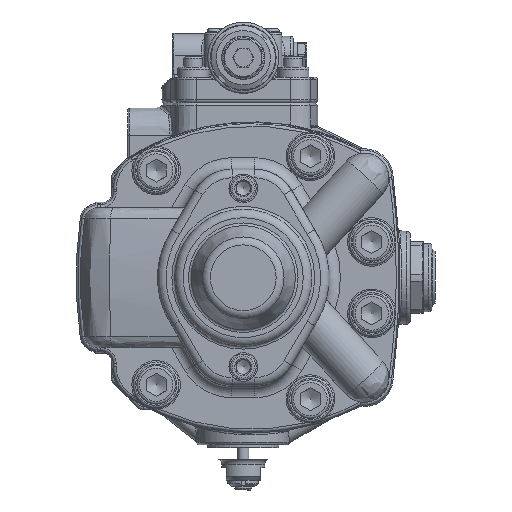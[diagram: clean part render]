
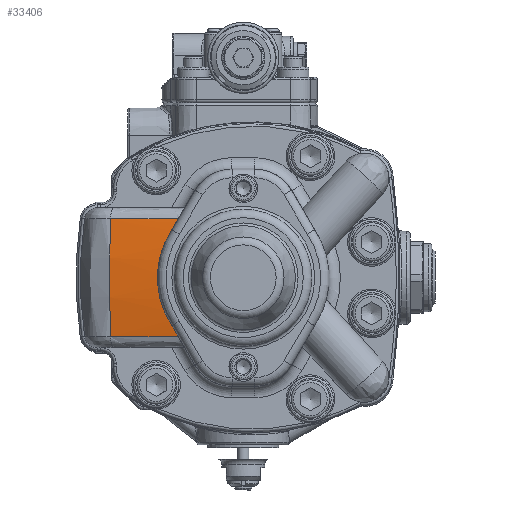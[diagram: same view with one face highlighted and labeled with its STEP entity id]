
A CAD part, front view. The second image highlights one B-rep face of the part: STEP entity #33406.
In plain terms, the highlighted free-form (B-spline) face has degree [1, 2] with [2, 3] control points.
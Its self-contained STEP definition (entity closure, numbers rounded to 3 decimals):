
#20=(
BOUNDED_SURFACE()
B_SPLINE_SURFACE(1,2,((#72570,#72571,#72572),(#72573,#72574,#72575)),
 .UNSPECIFIED.,.F.,.F.,.F.)
B_SPLINE_SURFACE_WITH_KNOTS((2,2),(3,3),(-0.183,-0.022),
(-1.709,-1.432),.UNSPECIFIED.)
GEOMETRIC_REPRESENTATION_ITEM()
RATIONAL_B_SPLINE_SURFACE(((1.,0.99,1.),(1.,0.99,
1.)))
REPRESENTATION_ITEM('')
SURFACE()
);
#108=ELLIPSE('',#36650,346.023,294.047);
#109=ELLIPSE('',#36674,346.023,294.047);
#2928=LINE('',#72576,#4469);
#2929=LINE('',#72580,#4470);
#4469=VECTOR('',#44456,10.);
#4470=VECTOR('',#44459,10.);
#6878=FACE_OUTER_BOUND('',#8924,.T.);
#8924=EDGE_LOOP('',(#28001,#28002,#28003,#28004,#28005,#28006));
#10148=B_SPLINE_CURVE_WITH_KNOTS('',3,(#72536,#72537,#72538,#72539,#72540,
#72541,#72542,#72543,#72544,#72545,#72546,#72547,#72548,#72549),
 .UNSPECIFIED.,.F.,.F.,(4,2,2,2,2,2,4),(6.047,6.785,
7.918,9.05,10.183,11.315,12.054),
 .UNSPECIFIED.);
#11880=CIRCLE('',#36673,299.);
#14695=VERTEX_POINT('',#72509);
#14696=VERTEX_POINT('',#72511);
#14699=VERTEX_POINT('',#72535);
#14702=VERTEX_POINT('',#72563);
#14705=VERTEX_POINT('',#72577);
#14706=VERTEX_POINT('',#72579);
#19210=EDGE_CURVE('',#14695,#14696,#108,.T.);
#19223=EDGE_CURVE('',#14696,#14699,#10148,.T.);
#19230=EDGE_CURVE('',#14702,#14695,#2928,.T.);
#19231=EDGE_CURVE('',#14702,#14705,#11880,.T.);
#19232=EDGE_CURVE('',#14705,#14706,#2929,.T.);
#19233=EDGE_CURVE('',#14699,#14706,#109,.T.);
#28001=ORIENTED_EDGE('',*,*,#19210,.F.);
#28002=ORIENTED_EDGE('',*,*,#19230,.F.);
#28003=ORIENTED_EDGE('',*,*,#19231,.T.);
#28004=ORIENTED_EDGE('',*,*,#19232,.T.);
#28005=ORIENTED_EDGE('',*,*,#19233,.F.);
#28006=ORIENTED_EDGE('',*,*,#19223,.F.);
#33406=ADVANCED_FACE('',(#6878),#20,.F.);
#36650=AXIS2_PLACEMENT_3D('',#72512,#44406,#44407);
#36673=AXIS2_PLACEMENT_3D('',#72578,#44457,#44458);
#36674=AXIS2_PLACEMENT_3D('',#72581,#44460,#44461);
#44406=DIRECTION('center_axis',(0.866,0.,-0.5));
#44407=DIRECTION('ref_axis',(-0.496,0.126,-0.859));
#44456=DIRECTION('',(0.998,-0.07,0.));
#44457=DIRECTION('center_axis',(0.968,-0.251,0.));
#44458=DIRECTION('ref_axis',(-0.248,-0.959,0.138));
#44459=DIRECTION('',(0.998,-0.07,0.));
#44460=DIRECTION('center_axis',(0.866,0.,0.5));
#44461=DIRECTION('ref_axis',(0.496,-0.126,-0.859));
#72509=CARTESIAN_POINT('',(-41.91,-141.429,42.241));
#72511=CARTESIAN_POINT('',(-48.401,-142.305,31.));
#72512=CARTESIAN_POINT('Origin',(-65.721,152.12,1.));
#72535=CARTESIAN_POINT('',(-48.401,-142.305,-29.));
#72536=CARTESIAN_POINT('Ctrl Pts',(-48.401,-142.305,
31.));
#72537=CARTESIAN_POINT('Ctrl Pts',(-49.699,-142.438,
28.751));
#72538=CARTESIAN_POINT('Ctrl Pts',(-50.858,-142.564,
26.405));
#72539=CARTESIAN_POINT('Ctrl Pts',(-53.393,-142.851,
20.295));
#72540=CARTESIAN_POINT('Ctrl Pts',(-54.554,-142.994,
16.438));
#72541=CARTESIAN_POINT('Ctrl Pts',(-56.077,-143.183,
8.677));
#72542=CARTESIAN_POINT('Ctrl Pts',(-56.439,-143.23,
4.775));
#72543=CARTESIAN_POINT('Ctrl Pts',(-56.439,-143.23,
-2.775));
#72544=CARTESIAN_POINT('Ctrl Pts',(-56.077,-143.183,
-6.677));
#72545=CARTESIAN_POINT('Ctrl Pts',(-54.554,-142.994,
-14.438));
#72546=CARTESIAN_POINT('Ctrl Pts',(-53.393,-142.851,
-18.295));
#72547=CARTESIAN_POINT('Ctrl Pts',(-50.858,-142.564,
-24.405));
#72548=CARTESIAN_POINT('Ctrl Pts',(-49.699,-142.438,
-26.751));
#72549=CARTESIAN_POINT('Ctrl Pts',(-48.401,-142.305,
-29.));
#72563=CARTESIAN_POINT('',(-89.312,-138.114,42.241));
#72570=CARTESIAN_POINT('Ctrl Pts',(-90.004,-138.066,
42.241));
#72571=CARTESIAN_POINT('Ctrl Pts',(-90.398,-143.699,
1.));
#72572=CARTESIAN_POINT('Ctrl Pts',(-90.004,-138.066,
-40.241));
#72573=CARTESIAN_POINT('Ctrl Pts',(-41.91,-141.429,
42.241));
#72574=CARTESIAN_POINT('Ctrl Pts',(-42.304,-147.062,
1.));
#72575=CARTESIAN_POINT('Ctrl Pts',(-41.91,-141.429,
-40.241));
#72576=CARTESIAN_POINT('',(-89.312,-138.114,42.241));
#72577=CARTESIAN_POINT('',(-89.312,-138.114,-40.241));
#72578=CARTESIAN_POINT('Origin',(-15.109,148.58,1.));
#72579=CARTESIAN_POINT('',(-41.91,-141.429,-40.241));
#72580=CARTESIAN_POINT('',(-89.312,-138.114,-40.241));
#72581=CARTESIAN_POINT('Origin',(-65.721,152.12,1.));
